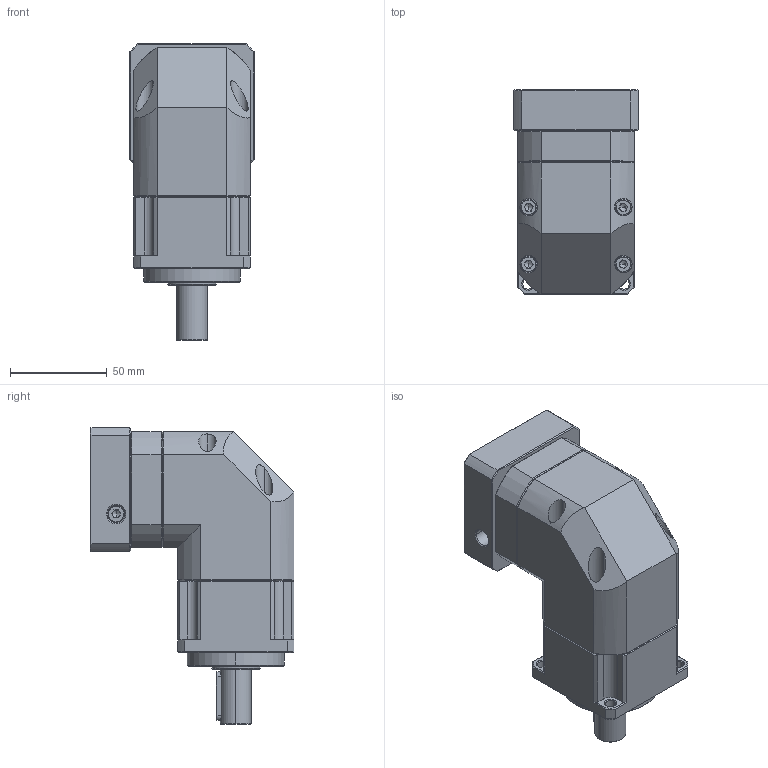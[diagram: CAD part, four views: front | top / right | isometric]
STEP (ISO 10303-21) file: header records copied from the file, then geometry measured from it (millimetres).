
FILE_DESCRIPTION (( 'STEP AP214' ), '1' );
FILE_NAME ('ZPBR060-D16-L1-P1-8-38.1-47.14X47.14-M4.STEP', '2024-05-03T14:27:25', ( 'Windows 蚚誧' ), ( 'Organization' ), 'SwSTEP 2.0', 'SolidWorks 2016', '' );
FILE_SCHEMA (( 'AUTOMOTIVE_DESIGN' ));
Length unit declared in the file: millimetre
Products named in the file (1): ZPBR060-D16-L1-P1-8-38.1-47.14X47.14-M4
Bounding box: 64 x 105.2 x 153 mm (x, y, z)
Volume: 501312 mm3; surface area: 65518.6 mm2
Topology: 1 solids, 33 shells, 1921 faces, 5100 edges, 3261 vertices
Faces by surface type: plane 1009, bspline 397, cone 260, cylinder 253, torus 2
Entity records: 84623 total; most frequent: CARTESIAN_POINT 33591, ORIENTED_EDGE 10156, DIRECTION 7901, EDGE_CURVE 5078, VECTOR 3355, LINE 3355, VERTEX_POINT 3261, AXIS2_PLACEMENT_3D 2273
